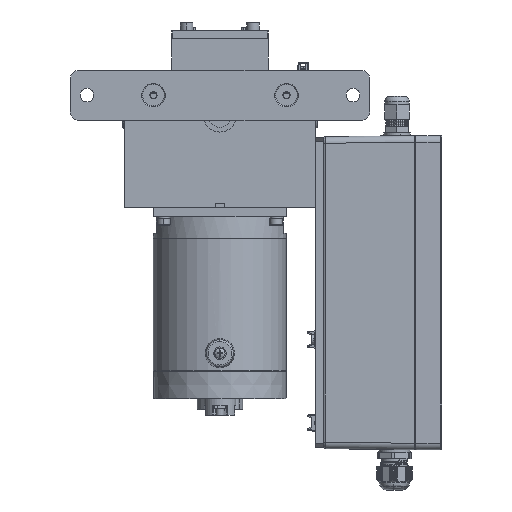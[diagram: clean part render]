
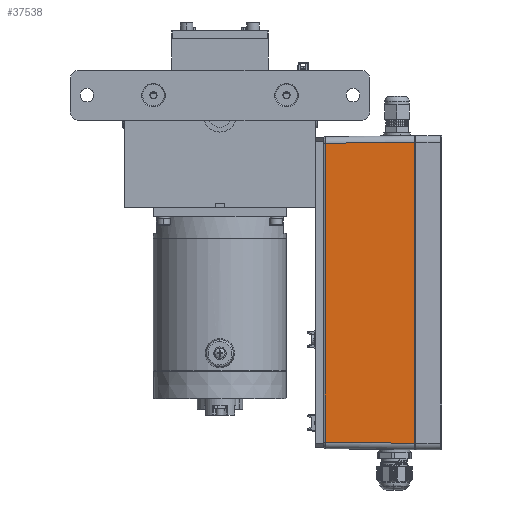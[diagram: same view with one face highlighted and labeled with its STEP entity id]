
A CAD part, front view. The second image highlights one B-rep face of the part: STEP entity #37538.
In plain terms, the highlighted planar face has unit normal (-0.013, -1, 0).
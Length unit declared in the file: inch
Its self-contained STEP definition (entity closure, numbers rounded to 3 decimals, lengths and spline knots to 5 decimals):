
#2346 = EDGE_CURVE ( 'NONE', #84269, #114134, #97072, .T. ) ;
#3541 = DIRECTION ( 'NONE',  ( -1., 0.013, -0.013 ) ) ;
#4995 = ORIENTED_EDGE ( 'NONE', *, *, #2346, .F. ) ;
#5797 = CARTESIAN_POINT ( 'NONE',  ( 5.84154, -0.14909, -0.09794 ) ) ;
#14599 = EDGE_CURVE ( 'NONE', #105875, #84269, #53175, .T. ) ;
#23230 = CARTESIAN_POINT ( 'NONE',  ( 5.84154, -0.14909, -9.15206 ) ) ;
#31598 = DIRECTION ( 'NONE',  ( -0.013, -1., 0. ) ) ;
#37538 = ADVANCED_FACE ( 'NONE', ( #123844 ), #99971, .T. ) ;
#46020 = VECTOR ( 'NONE', #64745, 39.37008 ) ;
#46210 = EDGE_CURVE ( 'NONE', #52939, #114134, #121019, .T. ) ;
#49019 = CARTESIAN_POINT ( 'NONE',  ( 3.16385, -0.11404, -2.2628 ) ) ;
#52939 = VERTEX_POINT ( 'NONE', #5797 ) ;
#53175 = LINE ( 'NONE', #119907, #125863 ) ;
#54245 = EDGE_LOOP ( 'NONE', ( #4995, #83638, #106663, #66834 ) ) ;
#54865 = CARTESIAN_POINT ( 'NONE',  ( 5.84154, -0.14909, 0.09941 ) ) ;
#55187 = CARTESIAN_POINT ( 'NONE',  ( 3.16385, -0.11404, -9.11701 ) ) ;
#61951 = DIRECTION ( 'NONE',  ( -1., 0.013, 0.013 ) ) ;
#64745 = DIRECTION ( 'NONE',  ( 0., 0., 1. ) ) ;
#66834 = ORIENTED_EDGE ( 'NONE', *, *, #46210, .T. ) ;
#68421 = VECTOR ( 'NONE', #3541, 39.37008 ) ;
#70751 = VECTOR ( 'NONE', #118161, 39.37008 ) ;
#72315 = LINE ( 'NONE', #54865, #46020 ) ;
#83638 = ORIENTED_EDGE ( 'NONE', *, *, #14599, .F. ) ;
#84269 = VERTEX_POINT ( 'NONE', #55187 ) ;
#90843 = CARTESIAN_POINT ( 'NONE',  ( 5.88091, -0.14961, 0.09941 ) ) ;
#92339 = CARTESIAN_POINT ( 'NONE',  ( 3.16385, -0.11404, -0.133 ) ) ;
#97072 = LINE ( 'NONE', #49019, #70751 ) ;
#99971 = PLANE ( 'NONE',  #121233 ) ;
#100357 = EDGE_CURVE ( 'NONE', #105875, #52939, #72315, .T. ) ;
#100812 = DIRECTION ( 'NONE',  ( 1., -0.013, 0. ) ) ;
#102508 = CARTESIAN_POINT ( 'NONE',  ( 5.84154, -0.14909, -0.09794 ) ) ;
#105875 = VERTEX_POINT ( 'NONE', #23230 ) ;
#106663 = ORIENTED_EDGE ( 'NONE', *, *, #100357, .T. ) ;
#114134 = VERTEX_POINT ( 'NONE', #92339 ) ;
#118161 = DIRECTION ( 'NONE',  ( 0., 0., 1. ) ) ;
#119907 = CARTESIAN_POINT ( 'NONE',  ( 5.82166, -0.14883, -9.1518 ) ) ;
#121019 = LINE ( 'NONE', #102508, #68421 ) ;
#121233 = AXIS2_PLACEMENT_3D ( 'NONE', #90843, #31598, #100812 ) ;
#123844 = FACE_OUTER_BOUND ( 'NONE', #54245, .T. ) ;
#125863 = VECTOR ( 'NONE', #61951, 39.37008 ) ;
